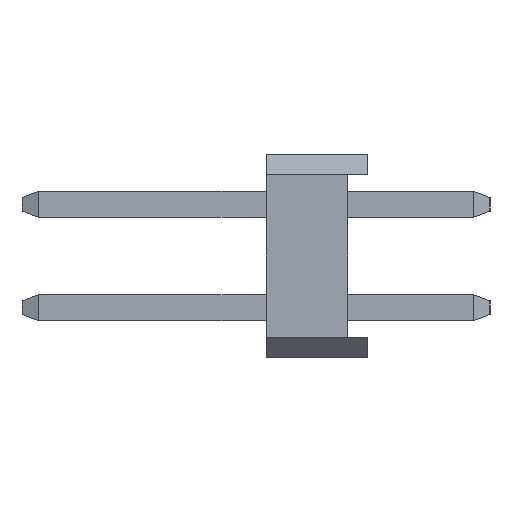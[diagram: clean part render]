
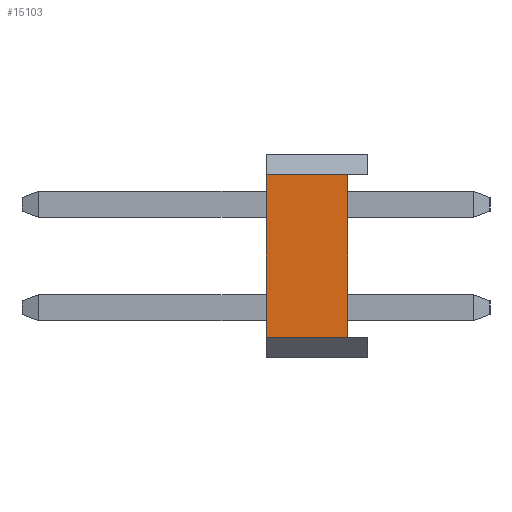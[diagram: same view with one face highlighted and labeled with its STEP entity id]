
A CAD part, left-side view. The second image highlights one B-rep face of the part: STEP entity #15103.
In plain terms, the highlighted planar face has unit normal (-1, 0, 0).
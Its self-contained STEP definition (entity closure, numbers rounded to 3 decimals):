
#969=FACE_OUTER_BOUND('',#1919,.T.);
#1919=EDGE_LOOP('',(#13115,#13116,#13117,#13118));
#3887=LINE('',#23851,#5915);
#3888=LINE('',#23853,#5916);
#3889=LINE('',#23855,#5917);
#3890=LINE('',#23856,#5918);
#5915=VECTOR('',#19689,10.);
#5916=VECTOR('',#19690,10.);
#5917=VECTOR('',#19691,10.);
#5918=VECTOR('',#19692,10.);
#7203=VERTEX_POINT('',#23815);
#7208=VERTEX_POINT('',#23825);
#7219=VERTEX_POINT('',#23852);
#7220=VERTEX_POINT('',#23854);
#9195=EDGE_CURVE('',#7203,#7208,#3887,.T.);
#9196=EDGE_CURVE('',#7208,#7219,#3888,.T.);
#9197=EDGE_CURVE('',#7219,#7220,#3889,.T.);
#9198=EDGE_CURVE('',#7203,#7220,#3890,.T.);
#13115=ORIENTED_EDGE('',*,*,#9195,.T.);
#13116=ORIENTED_EDGE('',*,*,#9196,.T.);
#13117=ORIENTED_EDGE('',*,*,#9197,.T.);
#13118=ORIENTED_EDGE('',*,*,#9198,.F.);
#14209=PLANE('',#16045);
#15103=ADVANCED_FACE('',(#969),#14209,.T.);
#16045=AXIS2_PLACEMENT_3D('',#23850,#19687,#19688);
#19687=DIRECTION('center_axis',(-1.,0.,0.));
#19688=DIRECTION('ref_axis',(0.,0.,1.));
#19689=DIRECTION('',(0.,0.,1.));
#19690=DIRECTION('',(0.,1.,0.));
#19691=DIRECTION('',(0.,0.,-1.));
#19692=DIRECTION('',(0.,1.,0.));
#23815=CARTESIAN_POINT('',(-73.62,6.9,0.5));
#23825=CARTESIAN_POINT('',(-73.62,6.9,4.5));
#23850=CARTESIAN_POINT('Origin',(-73.62,6.4,0.5));
#23851=CARTESIAN_POINT('',(-73.62,6.9,1.5));
#23852=CARTESIAN_POINT('',(-73.62,8.9,4.5));
#23853=CARTESIAN_POINT('',(-73.62,6.4,4.5));
#23854=CARTESIAN_POINT('',(-73.62,8.9,0.5));
#23855=CARTESIAN_POINT('',(-73.62,8.9,5.));
#23856=CARTESIAN_POINT('',(-73.62,6.4,0.5));
